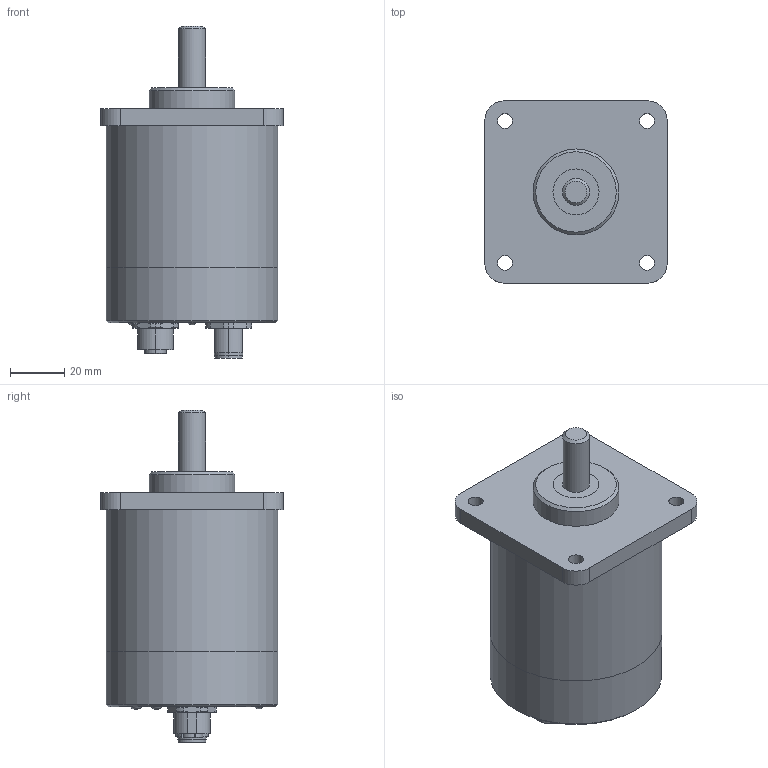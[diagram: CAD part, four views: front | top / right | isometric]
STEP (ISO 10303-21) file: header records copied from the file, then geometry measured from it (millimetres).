
FILE_DESCRIPTION(/* description */ ('Alibre Inc.'),/* implementation_level */ '2;1');
FILE_NAME(/* name */ 'export0',/* time_stamp */ '2010-05-25T09:11:33-04:00',/* author */ (''),/* organization */ (''),/* preprocessor_version */ 'ST-DEVELOPER v10',/* originating_system */ 'Alibre',/* authorisation */ '');
FILE_SCHEMA (('CONFIG_CONTROL_DESIGN'));
Length unit declared in the file: centimetre
Products named in the file (11): ID_1; ID_2; ID_3; ID_4; ID_5; ID_6; ID_7; ID_8; ID_9; ID_10
Bounding box: 67.31 x 67.31 x 122.63 mm (x, y, z)
Volume: 266854.3 mm3; surface area: 49236.5 mm2
Topology: 11 solids, 11 shells, 280 faces, 616 edges, 397 vertices
Faces by surface type: plane 121, cylinder 112, cone 36, sphere 4, bspline 4, torus 3
Full cylindrical faces by diameter (mm): 2.92 x2, 3 x20, 3.96 x4, 5.537 x4, 10 x3, 11.5 x2, 17 x2, 24 x1, 26 x2, 31.75 x1, 58.72 x2, 63.5 x2
Entity records: 8357 total; most frequent: CARTESIAN_POINT 1387, DIRECTION 1233, ORIENTED_EDGE 1080, AXIS2_PLACEMENT_3D 564, EDGE_CURVE 540, EDGE_LOOP 384, FACE_BOUND 384, VERTEX_POINT 380
